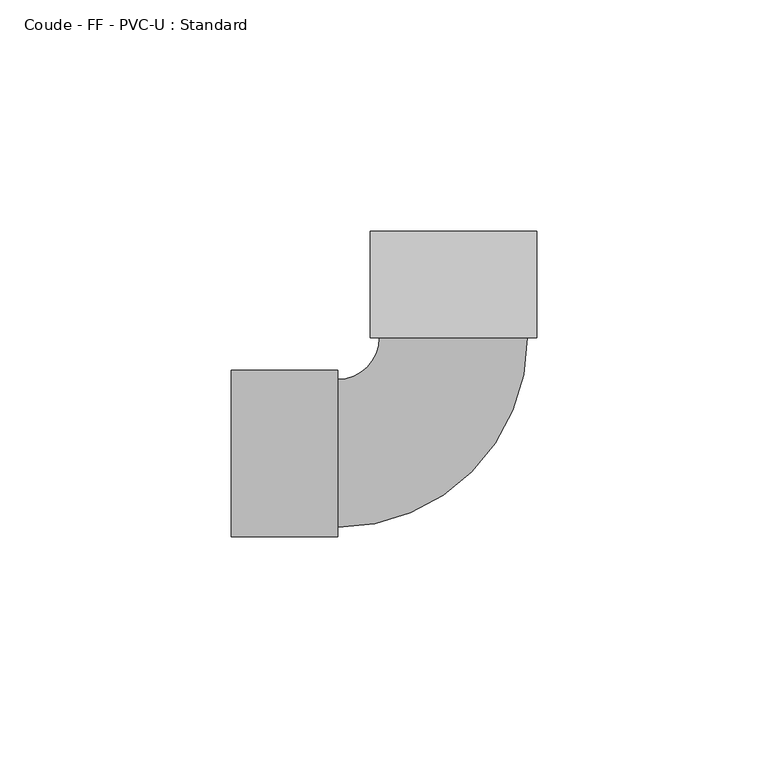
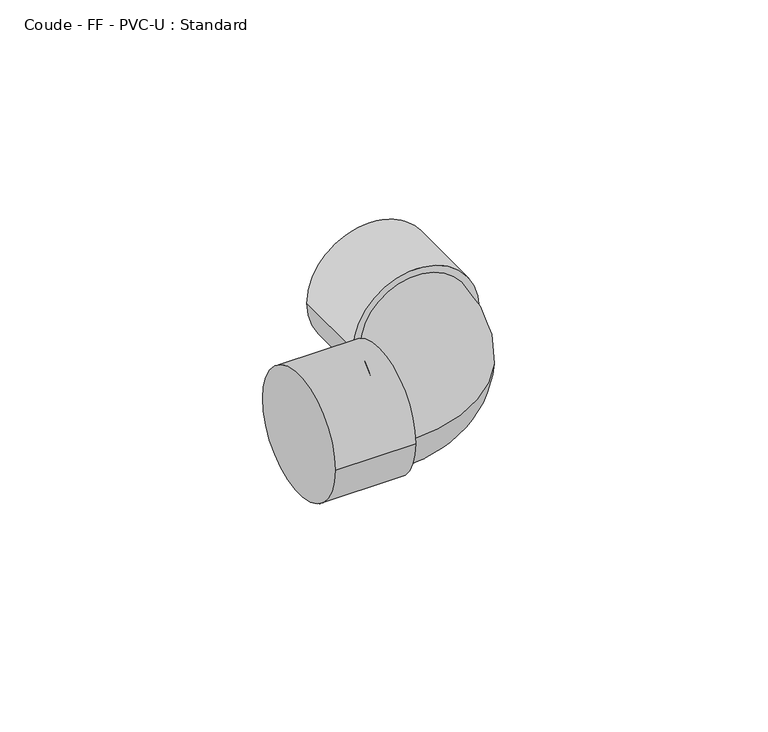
"""IFC4 building model written with IfcOpenShell, lengths in millimetres: pipe fitting geometry, Coude - FF - PVC-U : Standard."""

from ifc_helpers import new_model, si_unit, point, frame, origin, place, context, project, spatial, circle_curve, ellipse_curve, trimmed, source, transform, mapped, element, save
from ifc_brep_helpers import plane_surface, cylinder_surface, revolved_surface, advanced_brep


def coude_ff_pvc_u_standard_3f744909(model_context):
    return source(origin(), model_context, "Body", "AdvancedBrep", [
        advanced_brep(
        [(-48.0, -18.0, 0.0), (-48.0, 18.0, 0.0), (-25.0, -18.0, 0.0), (-25.0, 18.0, 0.0), (-25.0, -16.0, 0.0), (-25.0, 16.0, 0.0), (-15.9943759, 25.0035986, 0.0), (16.0056233, 24.9964002, 0.0), (18.0056233, 24.9959503, 0.0), (-17.9943758, 25.0040485, 0.0), (18.0107971, 47.9959497, 0.0), (-17.989202, 48.0040479, 0.0)],
        [
            (0, 1, circle_curve(frame((-48.0, 0.0, 0.0), z_axis=(-1.0, 0.0, 0.0), x_axis=(0.0, 1.0, 0.0)), 18.0)),
            (1, 0, circle_curve(frame((-48.0, 0.0, 0.0), z_axis=(-1.0, 0.0, 0.0), x_axis=(0.0, 1.0, 0.0)), 18.0)),
            (2, 3, circle_curve(frame((-25.0, 0.0, 0.0), z_axis=(1.0, 0.0, 0.0), x_axis=(0.0, 1.0, 0.0)), 18.0)),
            (3, 2, circle_curve(frame((-25.0, 0.0, 0.0), z_axis=(1.0, 0.0, 0.0), x_axis=(0.0, 1.0, 0.0)), 18.0)),
            (4, 5, circle_curve(frame((-25.0, 0.0, 0.0), z_axis=(-1.0, 0.0, 0.0), x_axis=(0.0, 1.0, 0.0)), 16.0)),
            (5, 4, circle_curve(frame((-25.0, 0.0, 0.0), z_axis=(-1.0, 0.0, 0.0), x_axis=(0.0, 1.0, 0.0)), 16.0)),
            (0, 2),
            (3, 1),
            (6, 5, circle_curve(frame((-25.0, 25.0056244, 0.0), z_axis=(0.0, 0.0, -1.0), x_axis=(0.0, -1.0, 0.0)), 9.0056244)),
            (4, 7, circle_curve(frame((-25.0, 25.0056244, 0.0), z_axis=(0.0, 0.0, 1.0), x_axis=(0.0, -1.0, 0.0)), 41.0056244)),
            (7, 6, circle_curve(frame((0.0056237, 24.9999994, 0.0), z_axis=(-0.00022494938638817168, -0.9999999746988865, 0.0), x_axis=(-0.9999999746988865, 0.00022494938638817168, 0.0)), 16.0)),
            (6, 7, circle_curve(frame((0.0056237, 24.9999994, 0.0), z_axis=(-0.00022494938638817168, -0.9999999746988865, 0.0), x_axis=(-0.9999999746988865, 0.00022494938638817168, 0.0)), 16.0)),
            (8, 9, circle_curve(frame((0.0056237, 24.9999994, 0.0), z_axis=(-0.0002249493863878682, -0.9999999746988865, 0.0), x_axis=(-0.9999999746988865, 0.0002249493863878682, 0.0)), 18.0)),
            (9, 8, circle_curve(frame((0.0056237, 24.9999994, 0.0), z_axis=(-0.0002249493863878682, -0.9999999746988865, 0.0), x_axis=(-0.9999999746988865, 0.0002249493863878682, 0.0)), 18.0)),
            (10, 11, circle_curve(frame((0.0107976, 47.9999988, 0.0), z_axis=(0.0002249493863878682, 0.9999999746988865, 0.0), x_axis=(-0.9999999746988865, 0.0002249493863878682, 0.0)), 18.0)),
            (11, 10, circle_curve(frame((0.0107976, 47.9999988, 0.0), z_axis=(0.0002249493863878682, 0.9999999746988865, 0.0), x_axis=(-0.9999999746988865, 0.0002249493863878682, 0.0)), 18.0)),
            (8, 10),
            (11, 9),
        ],
        [
            plane_surface(frame((-48.0, 0.0, 0.0), z_axis=(-1.0, 0.0, 0.0), x_axis=(0.0, 0.0, 1.0))),
            plane_surface(frame((-25.0, 0.0, 0.0), z_axis=(1.0, 0.0, 0.0), x_axis=(0.0, 0.0, 1.0))),
            cylinder_surface(frame((-48.0, 0.0, 0.0), z_axis=(-1.0, 0.0, 0.0), x_axis=(0.0, 1.0, 0.0)), 18.0),
            revolved_surface(trimmed(ellipse_curve(frame((-25.0, 0.0, 0.0), z_axis=(-1.0, 0.0, 0.0), x_axis=(0.0, 1.0, 0.0)), 16.0, 16.0), [point((-25.0, -16.0, 0.0))], [point((-25.0, 16.0, 0.0))], True, "CARTESIAN"), (-25.0, 25.0056244, 0.0), (0.0, 0.0, 1.0)),
            revolved_surface(trimmed(ellipse_curve(frame((-25.0, 0.0, 0.0), z_axis=(-1.0, 0.0, 0.0), x_axis=(0.0, 1.0, 0.0)), 16.0, 16.0), [point((-25.0, 16.0, 0.0))], [point((-25.0, -16.0, 0.0))], True, "CARTESIAN"), (-25.0, 25.0056244, 0.0), (0.0, 0.0, 1.0)),
            plane_surface(frame((0.0056237, 24.9999994, 0.0), z_axis=(-0.0002249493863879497, -0.9999999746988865, 0.0), x_axis=(0.0, 0.0, 1.0))),
            plane_surface(frame((0.0107976, 47.9999988, 0.0), z_axis=(0.0002249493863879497, 0.9999999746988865, 0.0), x_axis=(0.0, 0.0, 1.0))),
            cylinder_surface(frame((0.0056237, 24.9999994, 0.0), z_axis=(-0.0002249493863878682, -0.9999999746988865, 0.0), x_axis=(-0.9999999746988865, 0.0002249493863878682, 0.0)), 18.0),
        ],
        [
            (0, [[1, 2]]),
            (1, [[3, 4], [5, 6]]),
            (2, [[-1, 7, -4, 8]]),
            (2, [[-2, -8, -3, -7]]),
            (3, [[9, -5, 10, 11]]),
            (4, [[-9, 12, -10, -6]]),
            (5, [[13, 14], [-11, -12]]),
            (6, [[15, 16]]),
            (7, [[-13, 17, -16, 18]]),
            (7, [[-14, -18, -15, -17]]),
        ],
    ),
    ])


if __name__ == "__main__":
    model = new_model("IFC4")
    model_context = context("Model", 3, world=origin())
    ifc_project = project(units=[si_unit("LENGTHUNIT", "METRE", prefix="MILLI")], contexts=[model_context])
    site = spatial("IfcSite", under=ifc_project)
    building = spatial("IfcBuilding", under=site)
    placement = place(None, origin())
    coude_ff_pvc_u_standard_shape = coude_ff_pvc_u_standard_3f744909(model_context)
    element("IfcPipeFitting", 1, ObjectType="Coude - FF - PVC-U : Standard", at=placement, inside=building, context=model_context, shape_type="MappedRepresentation", body=[
        mapped(coude_ff_pvc_u_standard_shape, transform((0.0, 0.0, 0.0), x_axis=(1.0, 0.0, 0.0), y_axis=(0.0, 1.0, 0.0), z_axis=(0.0, 0.0, 1.0))),
    ])
    save(model, "model.ifc")
